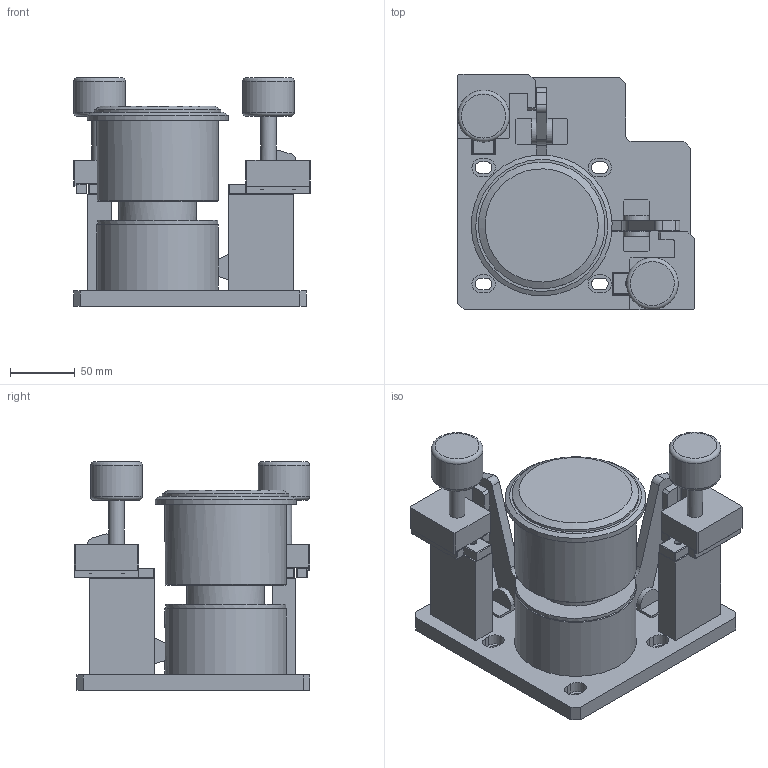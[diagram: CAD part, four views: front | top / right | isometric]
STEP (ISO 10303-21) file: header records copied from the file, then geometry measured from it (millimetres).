
FILE_DESCRIPTION(/* description */ (''),/* implementation_level */ '2;1');
FILE_NAME(/* name */ 'A:\업무자료\03. 개발\홍보자료제작\홈페이지(BKCI)\20181008 이전이력\첨부자료\STEP 파일\EFAU-15\EF2A\EF2A-15-0-UPE-S UP.stp',/* time_stamp */ '2018-11-30T13:41:03+09:00',/* author */ ('idt-l'),/* organization */ (''),/* preprocessor_version */ 'ST-DEVELOPER v16.13',/* originating_system */ 'Autodesk Inventor 2018',/* authorisation */ '');
FILE_SCHEMA (('AUTOMOTIVE_DESIGN { 1 0 10303 214 3 1 1 }'));
Length unit declared in the file: inch
Products named in the file (1): EF2A-15-0-UPE-S UP
Bounding box: 183.06 x 182.06 x 177 mm (x, y, z)
Volume: 1666806.4 mm3; surface area: 198599 mm2
Topology: 3 solids, 5 shells, 391 faces, 894 edges, 542 vertices
Faces by surface type: plane 309, cylinder 72, cone 6, torus 4
Full cylindrical faces by diameter (mm): 3.242 x12, 4.134 x2, 5 x2, 6 x12, 12 x2, 40 x2, 60 x1, 93 x1, 94 x2, 94.2 x1, 98 x1, 109 x1
Entity records: 10839 total; most frequent: DIRECTION 1769, CARTESIAN_POINT 1759, ORIENTED_EDGE 1660, EDGE_CURVE 830, LINE 671, VECTOR 671, AXIS2_PLACEMENT_3D 549, VERTEX_POINT 527
